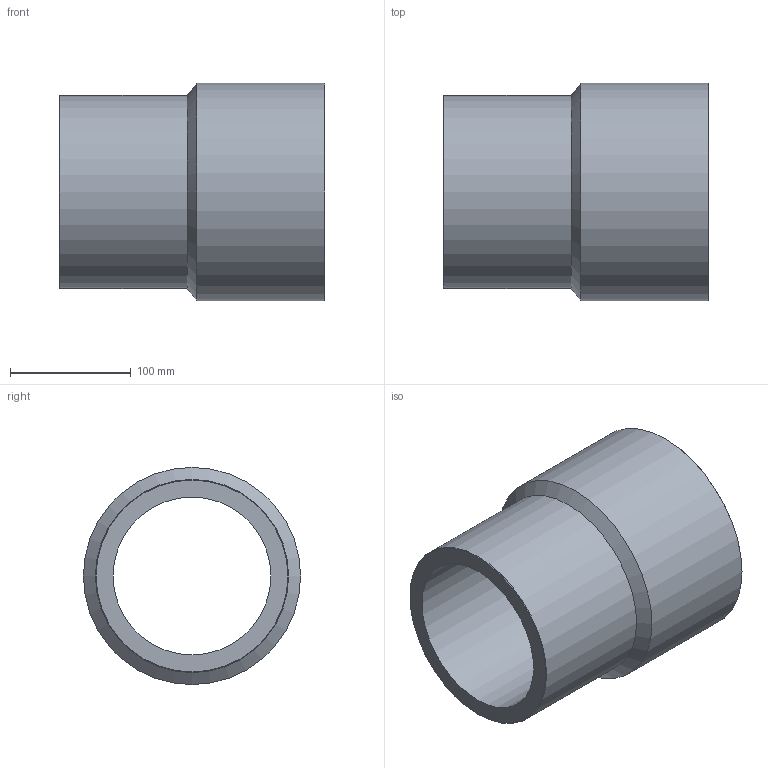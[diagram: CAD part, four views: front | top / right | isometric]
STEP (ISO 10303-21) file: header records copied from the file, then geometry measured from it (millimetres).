
FILE_DESCRIPTION(/* description */ ('Unknown'),/* implementation_level */ '2;1');
FILE_NAME(/* name */ 'RP180160C',/* time_stamp */ '2021-09-17T15:19:17+02:00',/* author */ ('Unknown'),/* organization */ ('Unknown'),/* preprocessor_version */ 'ST-DEVELOPER v16.7',/* originating_system */ 'Solid Edge',/* authorisation */ 'Unknown');
FILE_SCHEMA (('AUTOMOTIVE_DESIGN {1 0 10303 214 3 1 1}'));
Length unit declared in the file: millimetre
Products named in the file (1): RP180160C
Bounding box: 220 x 180 x 180 mm (x, y, z)
Volume: 1683973.6 mm3; surface area: 231617 mm2
Topology: 1 solids, 1 shells, 10 faces, 19 edges, 11 vertices
Faces by surface type: cylinder 4, cone 4, plane 2
Full cylindrical faces by diameter (mm): 130.8 x1, 147.2 x1, 160 x1, 180 x1
Entity records: 238 total; most frequent: DIRECTION 42, CARTESIAN_POINT 31, AXIS2_PLACEMENT_3D 21, ORIENTED_EDGE 20, EDGE_LOOP 20, FACE_BOUND 20, EDGE_CURVE 10, VERTEX_POINT 10
